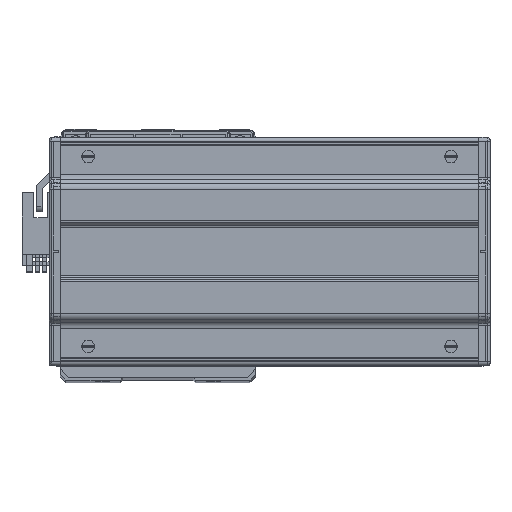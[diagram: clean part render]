
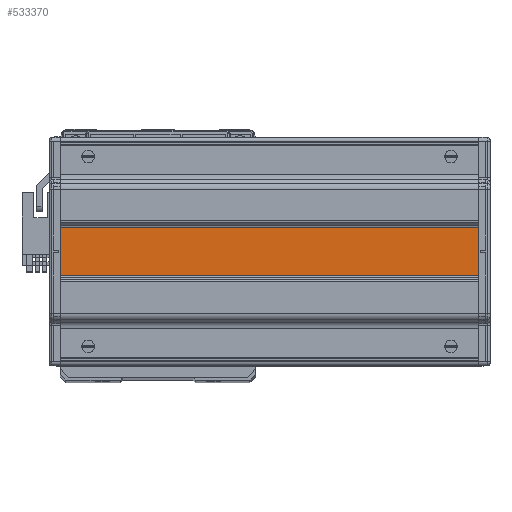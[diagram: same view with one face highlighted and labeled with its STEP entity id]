
A CAD part, top view. The second image highlights one B-rep face of the part: STEP entity #533370.
In plain terms, the highlighted planar face has unit normal (0, 0, 1) as drawn and (1, 0, 0) by its records, which use the part's own axes.
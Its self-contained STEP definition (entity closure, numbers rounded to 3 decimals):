
#532840=CARTESIAN_POINT('',(2.357,-8.586,75.));
#532850=VERTEX_POINT('',#532840);
#532880=CARTESIAN_POINT('',(2.357,-8.586,-75.));
#532890=DIRECTION('',(0.,0.,1.));
#532900=VECTOR('',#532890,1000.);
#532910=LINE('',#532880,#532900);
#532920=CARTESIAN_POINT('',(2.357,-8.586,-75.));
#532930=VERTEX_POINT('',#532920);
#532940=EDGE_CURVE('',#532930,#532850,#532910,.T.);
#533070=CARTESIAN_POINT('',(2.357,8.586,-75.));
#533080=DIRECTION('',(1.,0.,-0.));
#533090=DIRECTION('',(0.,0.,1.));
#533100=AXIS2_PLACEMENT_3D('',#533070,#533080,#533090);
#533110=PLANE('',#533100);
#533120=CARTESIAN_POINT('',(2.357,8.586,75.));
#533130=DIRECTION('',(0.,1.,0.));
#533140=VECTOR('',#533130,1000.);
#533150=LINE('',#533120,#533140);
#533160=CARTESIAN_POINT('',(2.357,8.586,75.));
#533170=VERTEX_POINT('',#533160);
#533180=EDGE_CURVE('',#532850,#533170,#533150,.T.);
#533190=ORIENTED_EDGE('',*,*,#533180,.F.);
#533200=CARTESIAN_POINT('',(2.357,8.586,-75.));
#533210=DIRECTION('',(0.,0.,1.));
#533220=VECTOR('',#533210,1000.);
#533230=LINE('',#533200,#533220);
#533240=CARTESIAN_POINT('',(2.357,8.586,-75.));
#533250=VERTEX_POINT('',#533240);
#533260=EDGE_CURVE('',#533250,#533170,#533230,.T.);
#533270=ORIENTED_EDGE('',*,*,#533260,.T.);
#533280=CARTESIAN_POINT('',(2.357,-8.586,-75.));
#533290=DIRECTION('',(0.,1.,0.));
#533300=VECTOR('',#533290,1000.);
#533310=LINE('',#533280,#533300);
#533320=EDGE_CURVE('',#532930,#533250,#533310,.T.);
#533330=ORIENTED_EDGE('',*,*,#533320,.T.);
#533340=ORIENTED_EDGE('',*,*,#532940,.F.);
#533350=EDGE_LOOP('',(#533340,#533330,#533270,#533190));
#533360=FACE_OUTER_BOUND('',#533350,.T.);
#533370=ADVANCED_FACE('',(#533360),#533110,.T.);
